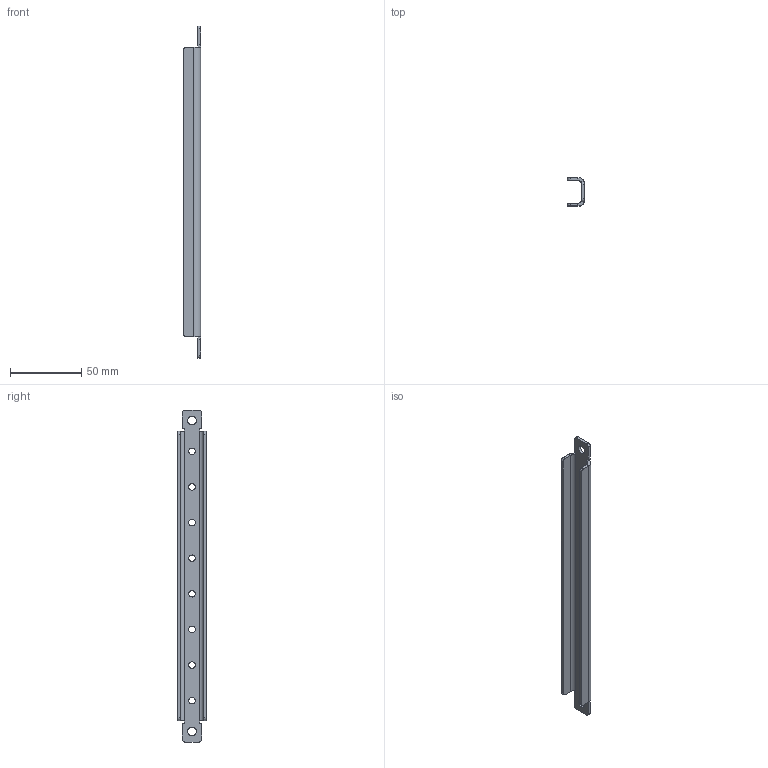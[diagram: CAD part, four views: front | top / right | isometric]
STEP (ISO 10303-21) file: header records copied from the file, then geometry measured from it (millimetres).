
FILE_DESCRIPTION(('STEP AP242'), '1');
FILE_NAME('ÌÏÄ.ÙÌÏ Ìîíòàæíàÿ ïåðåìû÷êà', '', ('UNSPECIFIED'), ('UNSPECIFIED'), 'C3D Converter', 'C3D Toolkit', '');
FILE_SCHEMA(('AP242_MANAGED_MODEL_BASED_3D_ENGINEERING_MIM_LF { 1 0 10303 442 1 1 4 }'));
Length unit declared in the file: millimetre
Products named in the file (1): МПД.ЩМП
Bounding box: 12 x 20 x 233 mm (x, y, z)
Volume: 15418.5 mm3; surface area: 16811.5 mm2
Topology: 1 solids, 1 shells, 52 faces, 134 edges, 84 vertices
Faces by surface type: plane 30, cylinder 22
Full cylindrical faces by diameter (mm): 4.5 x8, 6 x2
Entity records: 2015 total; most frequent: DIRECTION 274, CARTESIAN_POINT 261, ORIENTED_EDGE 248, EDGE_CURVE 124, AXIS2_PLACEMENT_3D 97, VERTEX_POINT 84, EDGE_LOOP 82, LINE 80
